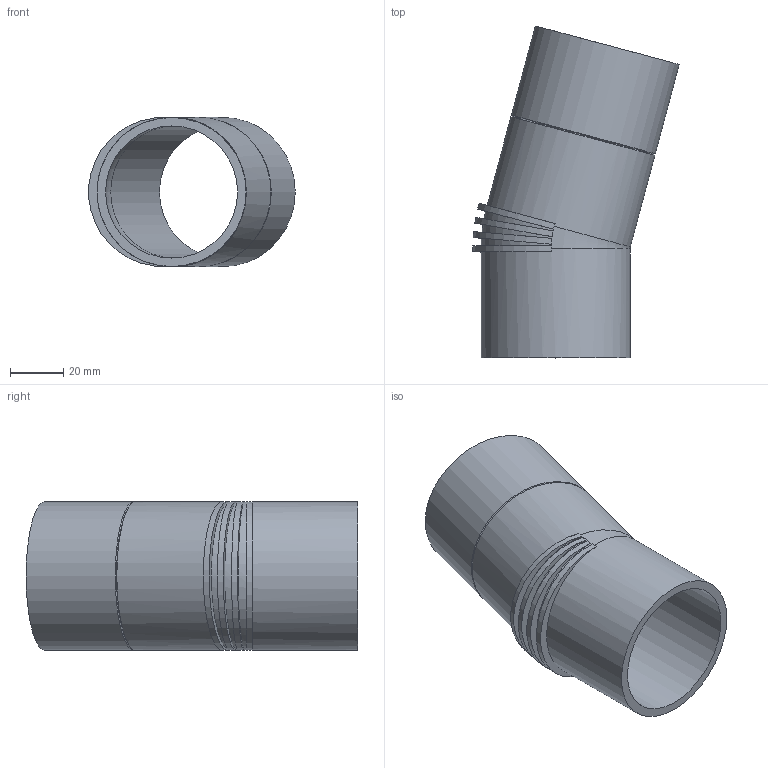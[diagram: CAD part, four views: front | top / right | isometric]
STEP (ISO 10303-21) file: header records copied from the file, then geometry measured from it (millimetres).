
FILE_DESCRIPTION(/* description */ (''),/* implementation_level */ '2;1');
FILE_NAME(/* name */ 'Z:\Geberit\Export\NewStep\Bogen_Ipart\stp\305150.stp',/* time_stamp */ '2014-04-03T16:41:29+02:00',/* author */ ('Marco'),/* organization */ (''),/* preprocessor_version */ 'ST-DEVELOPER v15.2',/* originating_system */ 'Autodesk Inventor 2014',/* authorisation */ '');
FILE_SCHEMA (('AUTOMOTIVE_DESIGN { 1 0 10303 214 3 1 1 }'));
Length unit declared in the file: millimetre
Products named in the file (1): 305150
Bounding box: 77.55 x 124.69 x 56 mm (x, y, z)
Volume: 65247.5 mm3; surface area: 42462.2 mm2
Topology: 1 solids, 1 shells, 23 faces, 60 edges, 39 vertices
Faces by surface type: plane 10, cylinder 9, cone 2, torus 2
Full cylindrical faces by diameter (mm): 49.6 x2, 56 x3
Entity records: 864 total; most frequent: CARTESIAN_POINT 340, DIRECTION 94, ORIENTED_EDGE 90, EDGE_CURVE 45, AXIS2_PLACEMENT_3D 45, EDGE_LOOP 36, VERTEX_POINT 35, STYLED_ITEM 24
